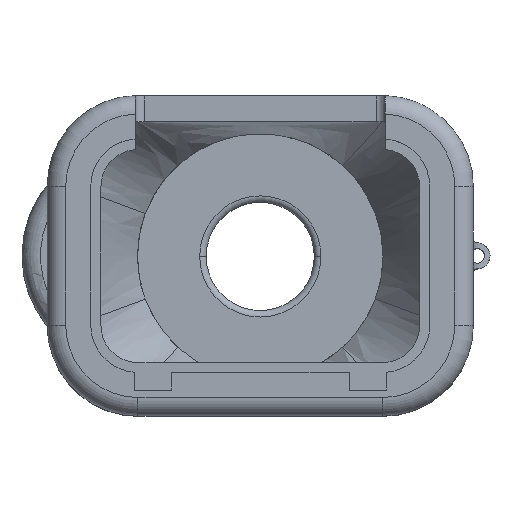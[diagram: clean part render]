
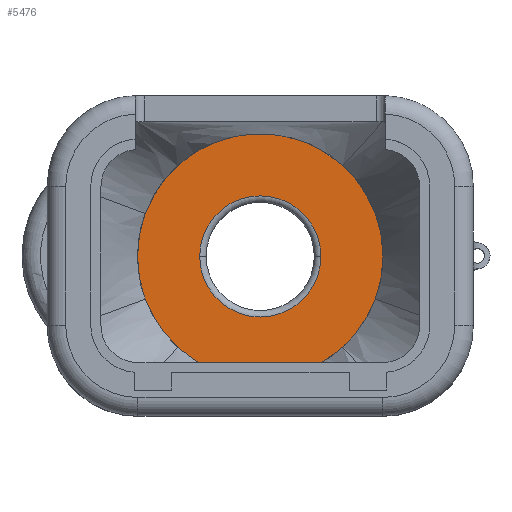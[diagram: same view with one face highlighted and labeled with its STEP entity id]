
A CAD part, top view. The second image highlights one B-rep face of the part: STEP entity #5476.
In plain terms, the highlighted planar face has unit normal (0, 0, 1).
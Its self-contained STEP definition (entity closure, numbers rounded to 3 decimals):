
#1624=CARTESIAN_POINT('',(0.,0.,-21.2));
#1625=DIRECTION('',(0.,0.,1.));
#1626=DIRECTION('',(-1.,0.,0.));
#1627=AXIS2_PLACEMENT_3D('',#1624,#1625,#1626);
#1634=CARTESIAN_POINT('',(0.,0.,-21.2));
#1635=DIRECTION('',(0.,0.,-1.));
#1636=DIRECTION('',(-1.,0.,0.));
#1637=AXIS2_PLACEMENT_3D('',#1634,#1635,#1636);
#1644=CARTESIAN_POINT('',(0.,0.,-21.2));
#1645=DIRECTION('',(0.,0.,1.));
#1646=DIRECTION('',(-1.,0.,0.));
#1647=AXIS2_PLACEMENT_3D('',#1644,#1645,#1646);
#1649=CARTESIAN_POINT('',(0.,0.,-21.2));
#1650=DIRECTION('',(0.,0.,-1.));
#1651=DIRECTION('',(-1.,0.,0.));
#1652=AXIS2_PLACEMENT_3D('',#1649,#1650,#1651);
#2361=CARTESIAN_POINT('',(-6.625,0.,-21.2));
#2362=CARTESIAN_POINT('',(6.625,0.,-21.2));
#2363=VERTEX_POINT('',#2361);
#2364=VERTEX_POINT('',#2362);
#2805=CARTESIAN_POINT('',(-3.27,0.,-21.2));
#2807=VERTEX_POINT('',#2805);
#2809=CARTESIAN_POINT('',(3.27,0.,-21.2));
#2811=VERTEX_POINT('',#2809);
#5463=CARTESIAN_POINT('',(0.,0.,-21.2));
#5464=DIRECTION('',(0.,0.,1.));
#5465=DIRECTION('',(-1.,0.,0.));
#5466=AXIS2_PLACEMENT_3D('',#5463,#5464,#5465);
#5467=PLANE('',#5466);
#5468=ORIENTED_EDGE('',*,*,#3582,.F.);
#5469=ORIENTED_EDGE('',*,*,#3561,.T.);
#5470=EDGE_LOOP('',(#5468,#5469));
#5471=FACE_OUTER_BOUND('',#5470,.F.);
#5472=ORIENTED_EDGE('',*,*,#5456,.F.);
#5473=ORIENTED_EDGE('',*,*,#5445,.T.);
#5474=EDGE_LOOP('',(#5472,#5473));
#5475=FACE_BOUND('',#5474,.F.);
#5476=ADVANCED_FACE('',(#5471,#5475),#5467,.T.);
#1628=CIRCLE('',#1627,3.27);
#1638=CIRCLE('',#1637,3.27);
#1648=CIRCLE('',#1647,6.625);
#1653=CIRCLE('',#1652,6.625);
#3561=EDGE_CURVE('',#2363,#2364,#1653,.T.);
#3582=EDGE_CURVE('',#2363,#2364,#1648,.T.);
#5445=EDGE_CURVE('',#2807,#2811,#1628,.T.);
#5456=EDGE_CURVE('',#2807,#2811,#1638,.T.);
